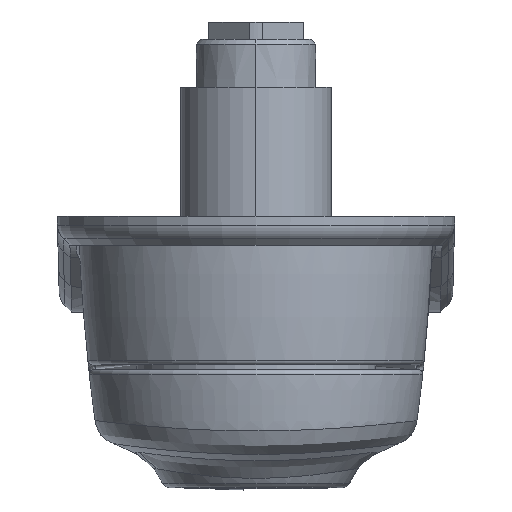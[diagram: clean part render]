
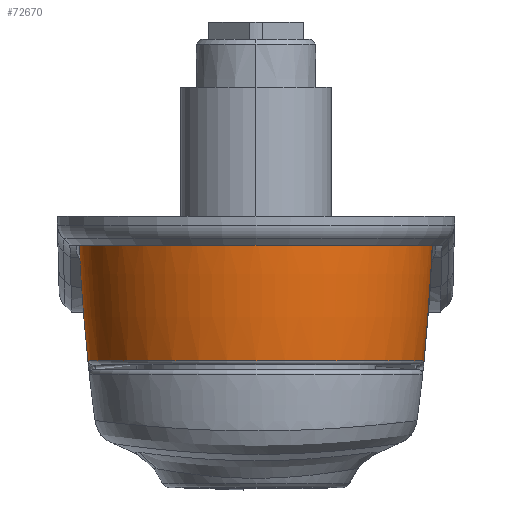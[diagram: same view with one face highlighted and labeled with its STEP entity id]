
A CAD part, front view. The second image highlights one B-rep face of the part: STEP entity #72670.
In plain terms, the highlighted toroidal (fillet/blend) face has major radius 181.375 mm and minor radius 200 mm.
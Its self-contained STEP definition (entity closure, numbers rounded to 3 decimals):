
#3068 = EDGE_LOOP ( 'NONE', ( #40962, #29192, #67476, #12822 ) ) ;
#10477 = DIRECTION ( 'NONE',  ( 0., 0., 1. ) ) ;
#12822 = ORIENTED_EDGE ( 'NONE', *, *, #26751, .F. ) ;
#14067 = VERTEX_POINT ( 'NONE', #95339 ) ;
#18909 = CARTESIAN_POINT ( 'NONE',  ( 0., 0., 20. ) ) ;
#19246 = CARTESIAN_POINT ( 'NONE',  ( 17.558, 0., 6.448 ) ) ;
#20780 = CARTESIAN_POINT ( 'NONE',  ( -18.5, 0., 20. ) ) ;
#26350 = DIRECTION ( 'NONE',  ( 1., 0., 0. ) ) ;
#26751 = EDGE_CURVE ( 'NONE', #83866, #14067, #84004, .T. ) ;
#27887 = AXIS2_PLACEMENT_3D ( 'NONE', #18909, #71025, #26350 ) ;
#29192 = ORIENTED_EDGE ( 'NONE', *, *, #37527, .T. ) ;
#29475 = CARTESIAN_POINT ( 'NONE',  ( 181.375, 0., 27.08 ) ) ;
#31872 = VERTEX_POINT ( 'NONE', #47150 ) ;
#33612 = EDGE_CURVE ( 'NONE', #31872, #14067, #86067, .T. ) ;
#34086 = DIRECTION ( 'NONE',  ( 0., 0., 1. ) ) ;
#34166 = CARTESIAN_POINT ( 'NONE',  ( 18.5, 0., 20. ) ) ;
#37022 = DIRECTION ( 'NONE',  ( 0., 0., -1. ) ) ;
#37527 = EDGE_CURVE ( 'NONE', #52623, #31872, #82988, .T. ) ;
#38296 = AXIS2_PLACEMENT_3D ( 'NONE', #55075, #10477, #62567 ) ;
#40962 = ORIENTED_EDGE ( 'NONE', *, *, #85631, .F. ) ;
#47150 = CARTESIAN_POINT ( 'NONE',  ( 17.558, 0., 6.448 ) ) ;
#47431 = AXIS2_PLACEMENT_3D ( 'NONE', #57883, #34086, #71575 ) ;
#49495 = TOROIDAL_SURFACE ( 'NONE', #47431, -181.375, 200. ) ;
#52623 = VERTEX_POINT ( 'NONE', #58659 ) ;
#55075 = CARTESIAN_POINT ( 'NONE',  ( 0., 0., 6.448 ) ) ;
#56045 = CIRCLE ( 'NONE', #86004, 200. ) ;
#57883 = CARTESIAN_POINT ( 'NONE',  ( 0., 0., 27.08 ) ) ;
#58659 = CARTESIAN_POINT ( 'NONE',  ( -17.558, 0., 6.448 ) ) ;
#62567 = DIRECTION ( 'NONE',  ( 1., 0., 0. ) ) ;
#63879 = CARTESIAN_POINT ( 'NONE',  ( 18.026, 0., 10.953 ) ) ;
#67476 = ORIENTED_EDGE ( 'NONE', *, *, #33612, .T. ) ;
#71025 = DIRECTION ( 'NONE',  ( 0., 0., 1. ) ) ;
#71575 = DIRECTION ( 'NONE',  ( 1., 0., 0. ) ) ;
#72670 = ADVANCED_FACE ( 'NONE', ( #89090 ), #49495, .T. ) ;
#78864 = CARTESIAN_POINT ( 'NONE',  ( 18.34, 0., 15.474 ) ) ;
#81623 = DIRECTION ( 'NONE',  ( 0., 1., 0. ) ) ;
#82988 = CIRCLE ( 'NONE', #38296, 17.558 ) ;
#83866 = VERTEX_POINT ( 'NONE', #20780 ) ;
#84004 = CIRCLE ( 'NONE', #27887, 18.5 ) ;
#85631 = EDGE_CURVE ( 'NONE', #52623, #83866, #56045, .T. ) ;
#86004 = AXIS2_PLACEMENT_3D ( 'NONE', #29475, #81623, #37022 ) ;
#86067 = B_SPLINE_CURVE_WITH_KNOTS ( 'NONE', 3,
 ( #19246, #63879, #78864, #34166 ),
 .UNSPECIFIED., .F., .F.,
 ( 4, 4 ),
 ( 0.437, 1. ),
 .UNSPECIFIED. ) ;
#89090 = FACE_OUTER_BOUND ( 'NONE', #3068, .T. ) ;
#95339 = CARTESIAN_POINT ( 'NONE',  ( 18.5, 0., 20. ) ) ;
